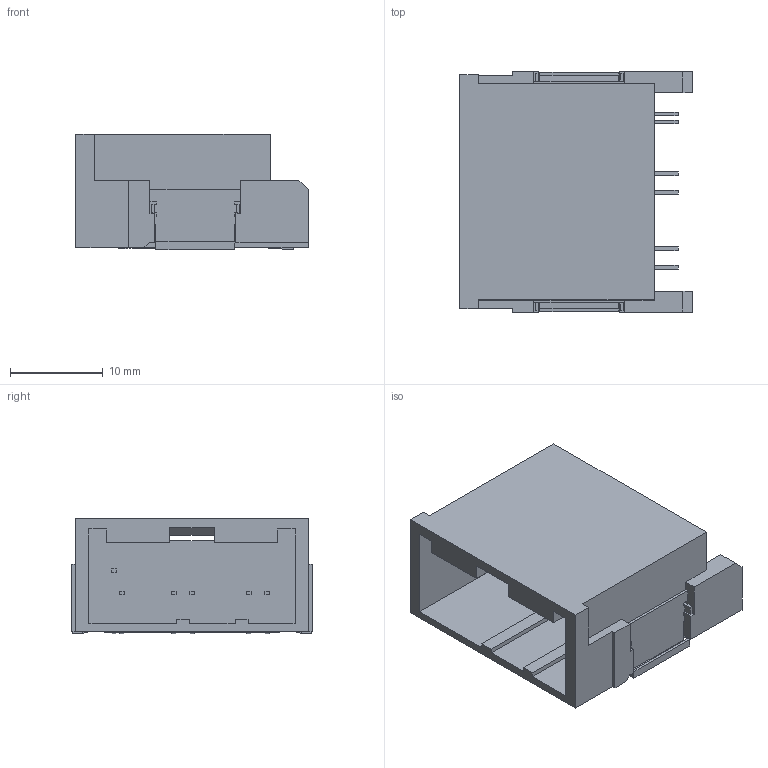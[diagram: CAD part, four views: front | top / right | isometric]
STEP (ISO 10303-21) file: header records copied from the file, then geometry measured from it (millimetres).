
FILE_DESCRIPTION(('CATIA V5 STEP','CAx-IF Rec.Pracs.--- Model Styling and Organization---1.5--- 2016-08-15','CAx-IF Rec.Pracs.---Supplemental Geometry---1.0---2011-11-01','CAx-IF Rec.Pracs.--- Composite Materials ---1.1---2010-07-15'),'2;1');
FILE_NAME('\\fss02.ad.sws.co.jp\fs100070\事務・購入\特命業務\特-35ｰ部品総合カタログメンテナンス\26年度\WEBカタログ用3D\260612_webカタログ新規登録用簡易3D\モデル保存場所\HFD-U2シリーズ\6910-9031.stp','2026-06-25T09:12:15+00:00',('none'),('none'),'CATIA Version 5-6 Release 2021 SP5 HF44','CATIA V5 STEP AP214 v2','none');
FILE_SCHEMA(('AUTOMOTIVE_DESIGN { 1 0 10303 214 1 1 1 1 }'));
Length unit declared in the file: millimetre
Products named in the file (1): 90980-12G77
Bounding box: 25.1 x 25.95 x 12.51 mm (x, y, z)
Volume: 3307.9 mm3; surface area: 3697.5 mm2
Topology: 1 solids, 1 shells, 223 faces, 634 edges, 422 vertices
Faces by surface type: plane 223
Entity records: 7047 total; most frequent: ORIENTED_EDGE 1268, CARTESIAN_POINT 1217, DIRECTION 951, EDGE_CURVE 634, VECTOR 633, LINE 633, VERTEX_POINT 422, EDGE_LOOP 234
